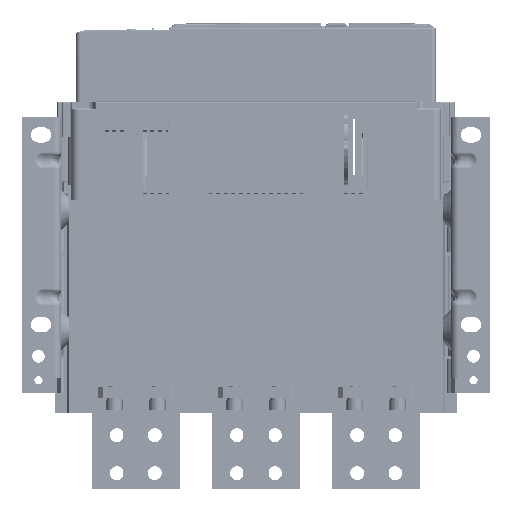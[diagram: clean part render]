
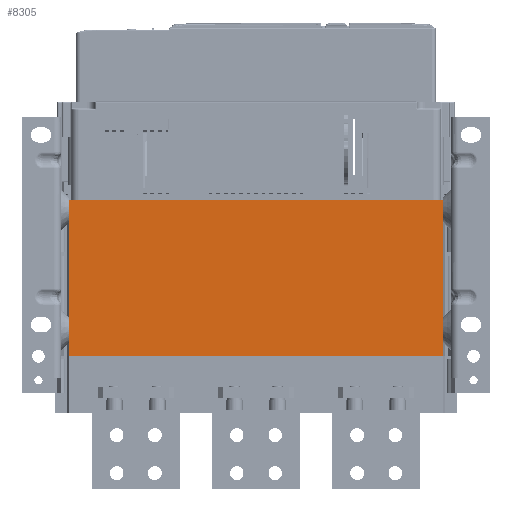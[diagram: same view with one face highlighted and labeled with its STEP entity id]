
A CAD part, top view. The second image highlights one B-rep face of the part: STEP entity #8305.
In plain terms, the highlighted planar face has unit normal (0, 0, 1).
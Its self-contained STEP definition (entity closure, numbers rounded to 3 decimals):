
#391=DIRECTION('',(1.,0.,0.));
#392=VECTOR('',#391,296.);
#393=CARTESIAN_POINT('',(-148.,123.,150.));
#394=LINE('',#393,#392);
#899=DIRECTION('',(1.,0.,0.));
#900=VECTOR('',#899,296.);
#901=CARTESIAN_POINT('',(-148.,0.,150.));
#902=LINE('',#901,#900);
#2607=DIRECTION('',(0.,1.,0.));
#2608=VECTOR('',#2607,123.);
#2609=CARTESIAN_POINT('',(148.,0.,150.));
#2610=LINE('',#2609,#2608);
#2650=DIRECTION('',(0.,1.,0.));
#2651=VECTOR('',#2650,123.);
#2652=CARTESIAN_POINT('',(-148.,0.,150.));
#2653=LINE('',#2652,#2651);
#5022=CARTESIAN_POINT('',(-148.,0.,150.));
#5023=VERTEX_POINT('',#5022);
#5024=CARTESIAN_POINT('',(148.,0.,150.));
#5025=VERTEX_POINT('',#5024);
#5038=CARTESIAN_POINT('',(-148.,123.,150.));
#5039=CARTESIAN_POINT('',(148.,123.,150.));
#5040=VERTEX_POINT('',#5038);
#5041=VERTEX_POINT('',#5039);
#8293=CARTESIAN_POINT('',(-148.,0.,150.));
#8294=DIRECTION('',(0.,0.,1.));
#8295=DIRECTION('',(1.,0.,0.));
#8296=AXIS2_PLACEMENT_3D('',#8293,#8294,#8295);
#8297=PLANE('',#8296);
#8298=ORIENTED_EDGE('',*,*,#6288,.F.);
#8300=ORIENTED_EDGE('',*,*,#8299,.T.);
#8301=ORIENTED_EDGE('',*,*,#6065,.T.);
#8302=ORIENTED_EDGE('',*,*,#8254,.F.);
#8303=EDGE_LOOP('',(#8298,#8300,#8301,#8302));
#8304=FACE_OUTER_BOUND('',#8303,.F.);
#8305=ADVANCED_FACE('',(#8304),#8297,.T.);
#6065=EDGE_CURVE('',#5040,#5041,#394,.T.);
#6288=EDGE_CURVE('',#5023,#5025,#902,.T.);
#8254=EDGE_CURVE('',#5025,#5041,#2610,.T.);
#8299=EDGE_CURVE('',#5023,#5040,#2653,.T.);
